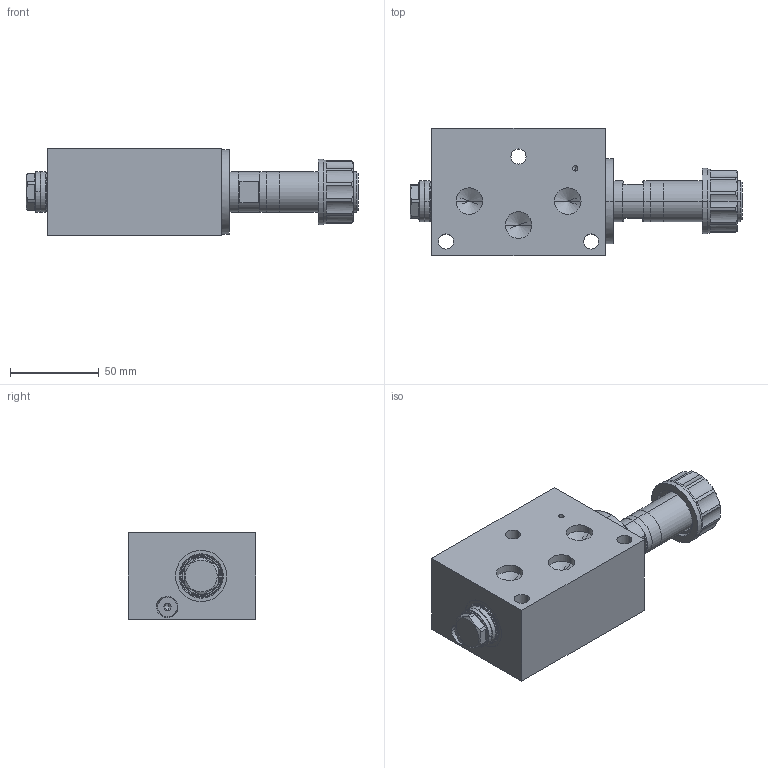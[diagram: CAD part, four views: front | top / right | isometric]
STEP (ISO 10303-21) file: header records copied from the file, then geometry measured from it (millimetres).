
FILE_DESCRIPTION (( 'STEP AP214' ), '1' );
FILE_NAME ('Control Section CMVA-MA06-B actuation at B.STEP', '2025-11-12T13:34:51', ( '' ), ( '' ), 'SwSTEP 2.0', 'SolidWorks 2024', '' );
FILE_SCHEMA (( 'AUTOMOTIVE_DESIGN' ));
Length unit declared in the file: millimetre
Products named in the file (1): Control Section CMVA-MA06-B actuation at B
Bounding box: 187.55 x 72 x 49 mm (x, y, z)
Volume: 354387.9 mm3; surface area: 70811.5 mm2
Topology: 21 solids, 21 shells, 1204 faces, 2921 edges, 1801 vertices
Faces by surface type: plane 599, cylinder 265, cone 199, bspline 79, torus 62
Entity records: 37750 total; most frequent: CARTESIAN_POINT 9440, DIRECTION 5947, ORIENTED_EDGE 5758, EDGE_CURVE 2879, AXIS2_PLACEMENT_3D 2156, VERTEX_POINT 1801, VECTOR 1635, LINE 1635
